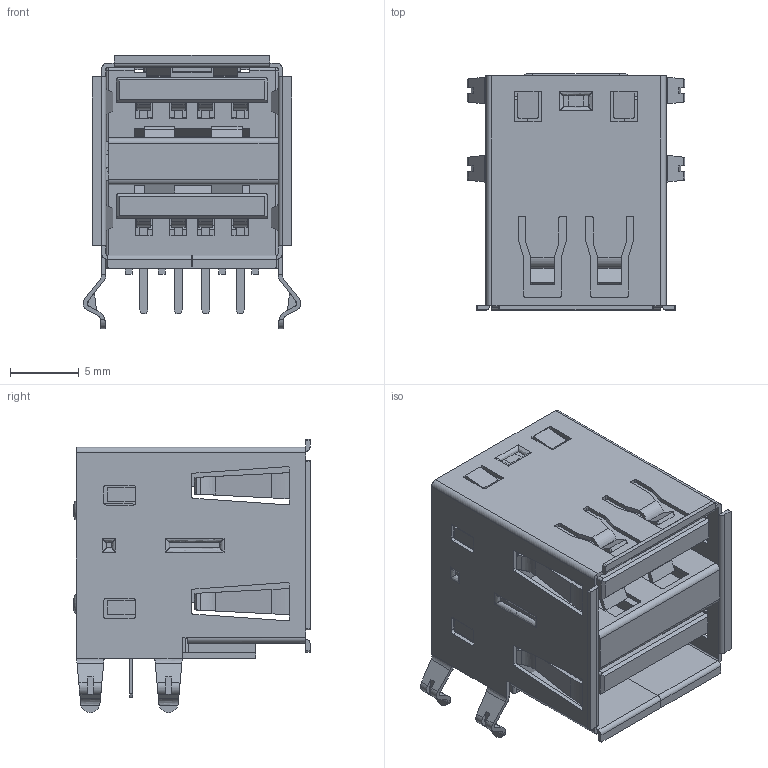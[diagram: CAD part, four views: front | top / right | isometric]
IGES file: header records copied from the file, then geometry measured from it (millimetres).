
Global section: file name: Filename.iges; native system: Open CASCADE 7.3; preprocessor: Open CASCADE IGES processor 7.3; date: 20201209.121357; units: millimetre
Bounding box: 15.83 x 17.15 x 19.84 mm (x, y, z)
Surface area: 5650.8 mm2 (no closed solid volume)
Topology: 0 solids, 0 shells, 1338 faces, 7674 edges, 7672 vertices
Faces by surface type: plane 926, revolution 410, bspline 2
